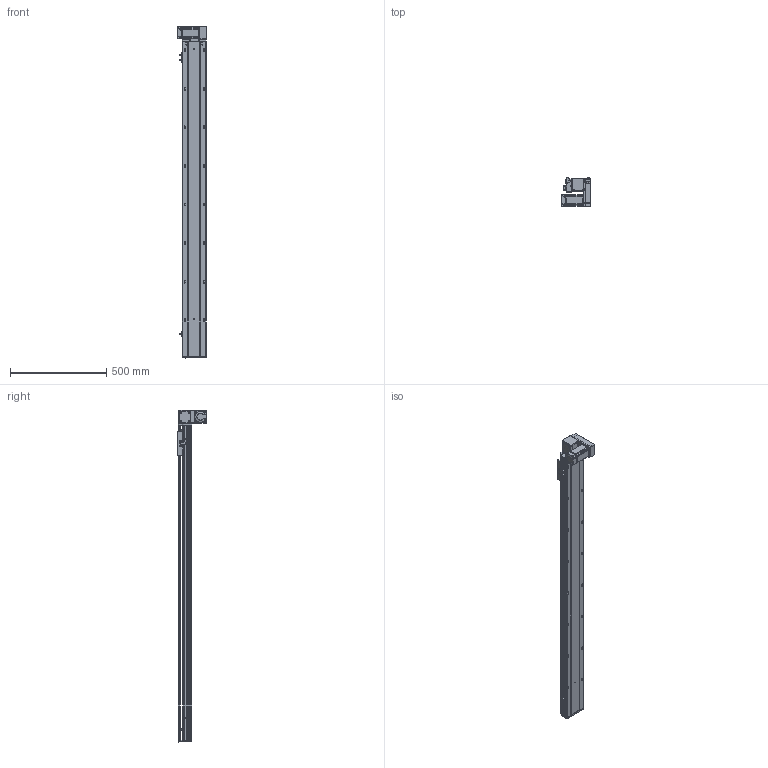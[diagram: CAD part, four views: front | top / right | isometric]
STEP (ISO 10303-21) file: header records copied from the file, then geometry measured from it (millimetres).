
FILE_DESCRIPTION (( 'STEP AP203' ), '1' );
FILE_NAME ('RY120-T-300-DR.SLDASM_1400.step', '2021-03-01T03:36:24', ( '盈信电脑' ), ( '东莞市道滘镇水果街19号' ), 'SwSTEP 2.0', 'SolidWorks 2012', '' );
FILE_SCHEMA (( 'CONFIG_CONTROL_DESIGN' ));
Length unit declared in the file: millimetre
Products named in the file (17): RY120-T主同步轮轴承压盖; RY120-T-300-DR.SLDASM_1400; RY120-T萇儂假蚾啣; RY120-T蹟翐M4; RY120-T萇儂欶; 15; 滅袉蝶18-10; RY120-T翋肮祭盓傅釱; RY120-T肮祭湍揤踡輸2; RY120-T翋肮祭謫裔啣; 覜茼ん672; RY120外置感应片(140共用）; RY120綴裔啣; RY120-T肮祭湍揤踡輸1; RY120-T-300-DR倰第菁釱_1400; RY120-T-300-DR倰第奻裔啣_1400; RY120肮祭湍臏賑輸
Assembly tree (22 placements, depth 2):
  RY120-T-300-DR.SLDASM_1400
    RY120-T-300-DR倰第菁釱_1400
    RY120-T-300-DR倰第奻裔啣_1400
    RY120肮祭湍臏賑輸
    RY120綴裔啣
    覜茼ん672  x3
    RY120外置感应片(140共用）
    RY120-T肮祭湍揤踡輸1
    RY120-T肮祭湍揤踡輸2
    RY120-T翋肮祭盓傅釱
    滅袉蝶18-10  x2
    RY120-T翋肮祭謫裔啣
    15
    RY120-T萇儂假蚾啣
    RY120-T蹟翐M4  x4
    RY120-T萇儂欶
    RY120-T主同步轮轴承压盖
Bounding box: 155.5 x 150 x 1721 mm (x, y, z)
Volume: 4494049.6 mm3; surface area: 1697381.1 mm2
Topology: 23 solids, 23 shells, 2910 faces, 7932 edges, 5068 vertices
Faces by surface type: plane 1422, cylinder 1120, cone 279, bspline 89
Entity records: 92611 total; most frequent: CARTESIAN_POINT 23622, ORIENTED_EDGE 14232, DIRECTION 13494, EDGE_CURVE 7116, VERTEX_POINT 4655, AXIS2_PLACEMENT_3D 4543, LINE 4408, VECTOR 4408
